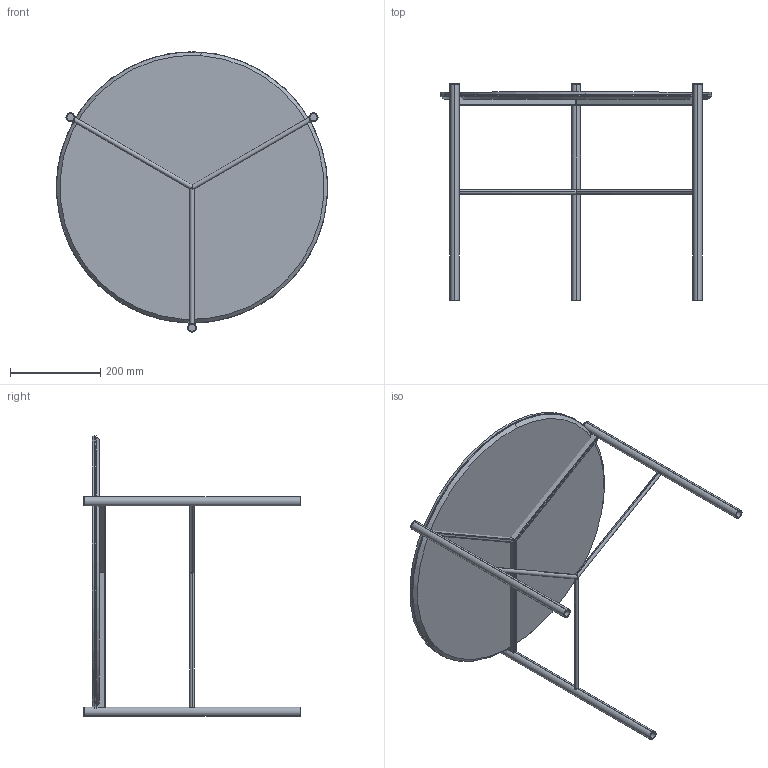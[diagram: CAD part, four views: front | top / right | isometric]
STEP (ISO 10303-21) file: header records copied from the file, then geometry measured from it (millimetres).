
FILE_DESCRIPTION (( 'STEP AP203' ), '1' );
FILE_NAME ('J301C.STEP', '2024-08-06T11:43:42', ( '' ), ( '' ), 'SwSTEP 2.0', 'SolidWorks 2022', '' );
FILE_SCHEMA (( 'CONFIG_CONTROL_DESIGN' ));
Length unit declared in the file: millimetre
Products named in the file (3): K1XCMXX-00-Piani Rotondi in ceramica_D.600; JXXXS00000000-00-jack metallo grezzo tutte le misure_J301S00000000-JACK TAVOLINO D.60x46h<A macchina>; J301C
Assembly tree (2 placements, depth 2):
  J301C
    JXXXS00000000-00-jack metallo grezzo tutte le misure_J301S00000000-JACK TAVOLINO D.60x46h<A macchina>
    K1XCMXX-00-Piani Rotondi in ceramica_D.600
Bounding box: 599.97 x 479 x 620.07 mm (x, y, z)
Volume: 5546771.3 mm3; surface area: 2030040.6 mm2
Topology: 15 solids, 15 shells, 131 faces, 303 edges, 200 vertices
Faces by surface type: cylinder 75, plane 54, cone 2
Entity records: 4654 total; most frequent: CARTESIAN_POINT 1471, ORIENTED_EDGE 606, DIRECTION 569, EDGE_CURVE 303, AXIS2_PLACEMENT_3D 208, VERTEX_POINT 200, LINE 153, VECTOR 153
